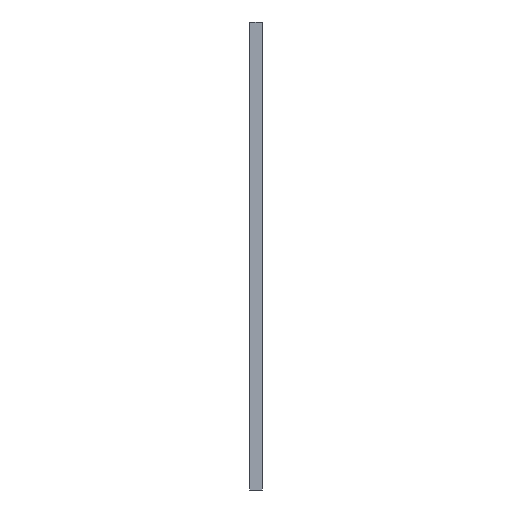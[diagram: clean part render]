
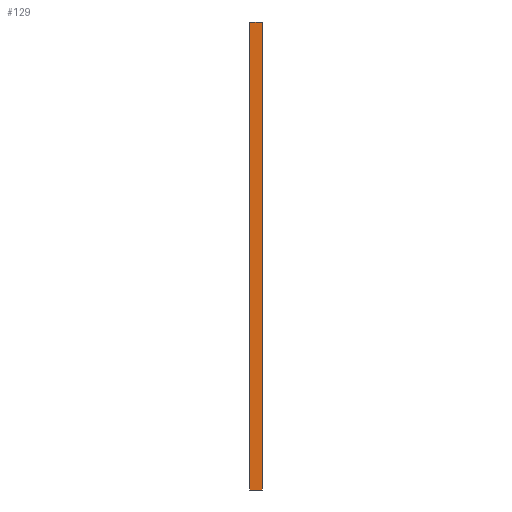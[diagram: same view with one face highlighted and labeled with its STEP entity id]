
A CAD part, front view. The second image highlights one B-rep face of the part: STEP entity #129.
In plain terms, the highlighted planar face has unit normal (0, -1, 0).
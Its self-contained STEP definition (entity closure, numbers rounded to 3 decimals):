
#123=FACE_OUTER_BOUND('',#675,.T.);
#129=ADVANCED_FACE('',(#123),#235,.T.);
#235=PLANE('',#1738);
#263=LINE('',#2507,#275);
#271=LINE('',#2611,#283);
#272=LINE('',#2613,#284);
#273=LINE('',#2614,#285);
#275=VECTOR('',#1992,1.);
#283=VECTOR('',#2092,1.);
#284=VECTOR('',#2095,1.);
#285=VECTOR('',#2096,1.);
#675=EDGE_LOOP('',(#978,#979,#980,#981));
#978=ORIENTED_EDGE('',*,*,#1444,.F.);
#979=ORIENTED_EDGE('',*,*,#1443,.F.);
#980=ORIENTED_EDGE('',*,*,#1445,.T.);
#981=ORIENTED_EDGE('',*,*,#1391,.T.);
#1234=VERTEX_POINT('',#2505);
#1236=VERTEX_POINT('',#2508);
#1284=VERTEX_POINT('',#2608);
#1285=VERTEX_POINT('',#2610);
#1391=EDGE_CURVE('',#1236,#1234,#263,.T.);
#1443=EDGE_CURVE('',#1285,#1284,#271,.T.);
#1444=EDGE_CURVE('',#1284,#1234,#272,.T.);
#1445=EDGE_CURVE('',#1285,#1236,#273,.T.);
#1738=AXIS2_PLACEMENT_3D('',#2615,#2097,#2098);
#1992=DIRECTION('',(0.,0.,-1.));
#2092=DIRECTION('',(0.,0.,-1.));
#2095=DIRECTION('',(-1.,0.,0.));
#2096=DIRECTION('',(-1.,0.,0.));
#2097=DIRECTION('',(0.,-1.,0.));
#2098=DIRECTION('',(0.,0.,-1.));
#2505=CARTESIAN_POINT('',(-12.5,-483.5,-281.));
#2507=CARTESIAN_POINT('',(-12.5,-483.5,664.));
#2508=CARTESIAN_POINT('',(-12.5,-483.5,664.));
#2608=CARTESIAN_POINT('',(12.5,-483.5,-281.));
#2610=CARTESIAN_POINT('',(12.5,-483.5,664.));
#2611=CARTESIAN_POINT('',(12.5,-483.5,664.));
#2613=CARTESIAN_POINT('',(12.5,-483.5,-281.));
#2614=CARTESIAN_POINT('',(12.5,-483.5,664.));
#2615=CARTESIAN_POINT('',(12.5,-483.5,664.));
